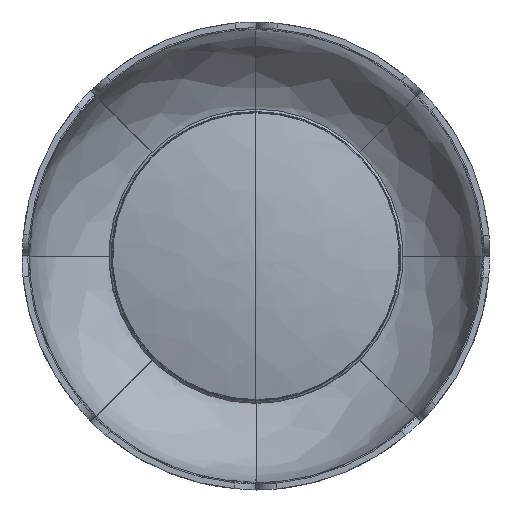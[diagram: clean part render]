
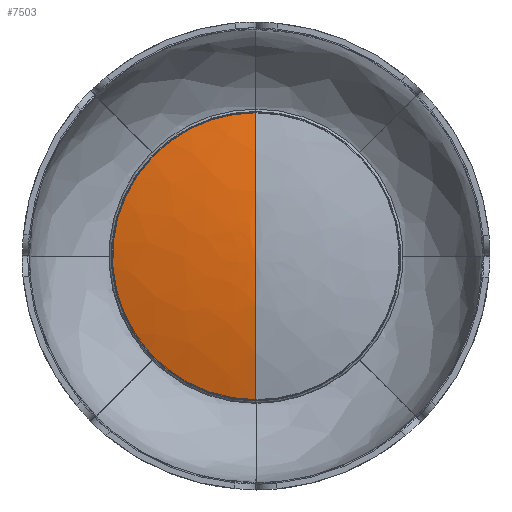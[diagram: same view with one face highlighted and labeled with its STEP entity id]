
A CAD part, top view. The second image highlights one B-rep face of the part: STEP entity #7503.
In plain terms, the highlighted free-form (B-spline) face has degree [2, 2] with [3, 5] control points.
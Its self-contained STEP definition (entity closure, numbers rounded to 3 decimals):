
#164=(
BOUNDED_SURFACE()
B_SPLINE_SURFACE(2,2,((#16433,#16434,#16435,#16436,#16437),(#16438,#16439,
#16440,#16441,#16442),(#16443,#16444,#16445,#16446,#16447)),
 .UNSPECIFIED.,.F.,.F.,.F.)
B_SPLINE_SURFACE_WITH_KNOTS((3,3),(3,2,3),(1.317,1.569),
(-1.571,0.,1.571),
 .UNSPECIFIED.)
GEOMETRIC_REPRESENTATION_ITEM()
RATIONAL_B_SPLINE_SURFACE(((1.,0.707,1.,0.707,1.),
(0.992,0.701,0.992,0.701,
0.992),(1.,0.707,1.,0.707,1.)))
REPRESENTATION_ITEM('')
SURFACE()
);
#346=B_SPLINE_CURVE_WITH_KNOTS('',3,(#16396,#16397,#16398,#16399,#16400,
#16401,#16402,#16403,#16404,#16405,#16406,#16407,#16408,#16409,#16410,#16411,
#16412,#16413,#16414,#16415,#16416,#16417,#16418,#16419,#16420,#16421,#16422,
#16423,#16424,#16425,#16426,#16427,#16428,#16429,#16430,#16431,#16432),
 .UNSPECIFIED.,.F.,.F.,(4,3,3,3,3,3,3,3,3,3,3,3,4),(0.,0.095,
0.19,0.286,0.333,0.427,
0.521,0.615,0.702,0.798,
0.893,0.988,1.),.UNSPECIFIED.);
#347=B_SPLINE_CURVE_WITH_KNOTS('',3,(#16448,#16449,#16450,#16451,#16452,
#16453,#16454,#16455,#16456,#16457,#16458,#16459,#16460,#16461,#16462,#16463,
#16464),.UNSPECIFIED.,.F.,.F.,(4,1,1,1,1,1,1,1,1,1,1,1,1,1,4),(0.,0.071,
0.143,0.214,0.286,0.357,
0.429,0.5,0.571,0.643,0.714,
0.786,0.857,0.929,1.),.UNSPECIFIED.);
#893=FACE_OUTER_BOUND('',#1345,.T.);
#1345=EDGE_LOOP('',(#6567,#6568,#6569));
#1675=CIRCLE('',#8163,980.822);
#3511=VERTEX_POINT('',#16375);
#3512=VERTEX_POINT('',#16376);
#3513=VERTEX_POINT('',#16378);
#4544=EDGE_CURVE('',#3511,#3512,#1675,.T.);
#4546=EDGE_CURVE('',#3512,#3513,#346,.T.);
#4547=EDGE_CURVE('',#3511,#3513,#347,.T.);
#6567=ORIENTED_EDGE('',*,*,#4546,.T.);
#6568=ORIENTED_EDGE('',*,*,#4547,.F.);
#6569=ORIENTED_EDGE('',*,*,#4544,.T.);
#7503=ADVANCED_FACE('',(#893),#164,.F.);
#8163=AXIS2_PLACEMENT_3D('',#16377,#9937,#9938);
#9937=DIRECTION('center_axis',(-1.,0.,0.));
#9938=DIRECTION('ref_axis',(0.,-1.,0.));
#16375=CARTESIAN_POINT('',(0.,-244.627,73.804));
#16376=CARTESIAN_POINT('',(0.,0.,105.228));
#16377=CARTESIAN_POINT('Origin',(0.,1.662,
-875.592));
#16378=CARTESIAN_POINT('',(0.,244.627,73.804));
#16396=CARTESIAN_POINT('Ctrl Pts',(0.,0.,
105.228));
#16397=CARTESIAN_POINT('Ctrl Pts',(0.,7.83,
105.215));
#16398=CARTESIAN_POINT('Ctrl Pts',(0.,15.659,
105.108));
#16399=CARTESIAN_POINT('Ctrl Pts',(0.,23.486,
104.907));
#16400=CARTESIAN_POINT('Ctrl Pts',(0.,31.332,
104.706));
#16401=CARTESIAN_POINT('Ctrl Pts',(0.,39.176,
104.41));
#16402=CARTESIAN_POINT('Ctrl Pts',(0.,47.015,
104.021));
#16403=CARTESIAN_POINT('Ctrl Pts',(0.,54.875,
103.63));
#16404=CARTESIAN_POINT('Ctrl Pts',(0.,62.731,
103.145));
#16405=CARTESIAN_POINT('Ctrl Pts',(0.,70.58,
102.565));
#16406=CARTESIAN_POINT('Ctrl Pts',(0.,74.498,
102.276));
#16407=CARTESIAN_POINT('Ctrl Pts',(0.,78.414,
101.963));
#16408=CARTESIAN_POINT('Ctrl Pts',(0.,82.328,
101.627));
#16409=CARTESIAN_POINT('Ctrl Pts',(0.,90.045,
100.963));
#16410=CARTESIAN_POINT('Ctrl Pts',(0.,97.755,
100.209));
#16411=CARTESIAN_POINT('Ctrl Pts',(0.,105.455,
99.363));
#16412=CARTESIAN_POINT('Ctrl Pts',(0.,113.157,
98.516));
#16413=CARTESIAN_POINT('Ctrl Pts',(0.,120.85,
97.579));
#16414=CARTESIAN_POINT('Ctrl Pts',(0.,128.529,
96.55));
#16415=CARTESIAN_POINT('Ctrl Pts',(0.,136.208,
95.522));
#16416=CARTESIAN_POINT('Ctrl Pts',(0.,143.873,
94.403));
#16417=CARTESIAN_POINT('Ctrl Pts',(0.,151.525,
93.193));
#16418=CARTESIAN_POINT('Ctrl Pts',(0.,158.624,
92.07));
#16419=CARTESIAN_POINT('Ctrl Pts',(0.,165.71,
90.87));
#16420=CARTESIAN_POINT('Ctrl Pts',(0.,172.782,
89.592));
#16421=CARTESIAN_POINT('Ctrl Pts',(0.,180.521,
88.193));
#16422=CARTESIAN_POINT('Ctrl Pts',(0.,188.243,
86.701));
#16423=CARTESIAN_POINT('Ctrl Pts',(0.,195.946,
85.117));
#16424=CARTESIAN_POINT('Ctrl Pts',(0.,203.634,
83.536));
#16425=CARTESIAN_POINT('Ctrl Pts',(0.,211.302,
81.862));
#16426=CARTESIAN_POINT('Ctrl Pts',(0.,218.95,
80.097));
#16427=CARTESIAN_POINT('Ctrl Pts',(0.,226.572,
78.337));
#16428=CARTESIAN_POINT('Ctrl Pts',(0.,234.172,
76.487));
#16429=CARTESIAN_POINT('Ctrl Pts',(0.,241.749,
74.546));
#16430=CARTESIAN_POINT('Ctrl Pts',(0.,242.709,
74.3));
#16431=CARTESIAN_POINT('Ctrl Pts',(0.,243.668,
74.052));
#16432=CARTESIAN_POINT('Ctrl Pts',(0.,244.627,
73.804));
#16433=CARTESIAN_POINT('Ctrl Pts',(0.,244.656,
73.796));
#16434=CARTESIAN_POINT('Ctrl Pts',(-244.656,244.656,73.796));
#16435=CARTESIAN_POINT('Ctrl Pts',(-244.656,0.,
73.796));
#16436=CARTESIAN_POINT('Ctrl Pts',(-244.656,-244.656,
73.796));
#16437=CARTESIAN_POINT('Ctrl Pts',(0.,-244.656,
73.796));
#16438=CARTESIAN_POINT('Ctrl Pts',(0.,124.32,
105.017));
#16439=CARTESIAN_POINT('Ctrl Pts',(-124.32,124.32,105.017));
#16440=CARTESIAN_POINT('Ctrl Pts',(-124.32,0.,
105.017));
#16441=CARTESIAN_POINT('Ctrl Pts',(-124.32,-124.32,
105.017));
#16442=CARTESIAN_POINT('Ctrl Pts',(0.,-124.32,
105.017));
#16443=CARTESIAN_POINT('Ctrl Pts',(0.,0.,
105.228));
#16444=CARTESIAN_POINT('Ctrl Pts',(0.,0.,
105.228));
#16445=CARTESIAN_POINT('Ctrl Pts',(0.,0.,
105.228));
#16446=CARTESIAN_POINT('Ctrl Pts',(0.,0.,
105.228));
#16447=CARTESIAN_POINT('Ctrl Pts',(0.,0.,
105.228));
#16448=CARTESIAN_POINT('Ctrl Pts',(0.,-244.627,
73.804));
#16449=CARTESIAN_POINT('Ctrl Pts',(-18.306,-244.663,
73.804));
#16450=CARTESIAN_POINT('Ctrl Pts',(-54.89,-240.487,73.804));
#16451=CARTESIAN_POINT('Ctrl Pts',(-107.035,-222.263,
73.804));
#16452=CARTESIAN_POINT('Ctrl Pts',(-153.808,-192.868,
73.804));
#16453=CARTESIAN_POINT('Ctrl Pts',(-192.869,-153.808,
73.804));
#16454=CARTESIAN_POINT('Ctrl Pts',(-222.259,-107.034,
73.804));
#16455=CARTESIAN_POINT('Ctrl Pts',(-240.504,-54.893,
73.804));
#16456=CARTESIAN_POINT('Ctrl Pts',(-246.689,0.,
73.804));
#16457=CARTESIAN_POINT('Ctrl Pts',(-240.504,54.893,73.804));
#16458=CARTESIAN_POINT('Ctrl Pts',(-222.259,107.034,73.804));
#16459=CARTESIAN_POINT('Ctrl Pts',(-192.869,153.808,73.804));
#16460=CARTESIAN_POINT('Ctrl Pts',(-153.808,192.868,73.804));
#16461=CARTESIAN_POINT('Ctrl Pts',(-107.035,222.263,73.804));
#16462=CARTESIAN_POINT('Ctrl Pts',(-54.89,240.487,73.804));
#16463=CARTESIAN_POINT('Ctrl Pts',(-18.306,244.663,73.804));
#16464=CARTESIAN_POINT('Ctrl Pts',(0.,244.627,
73.804));
